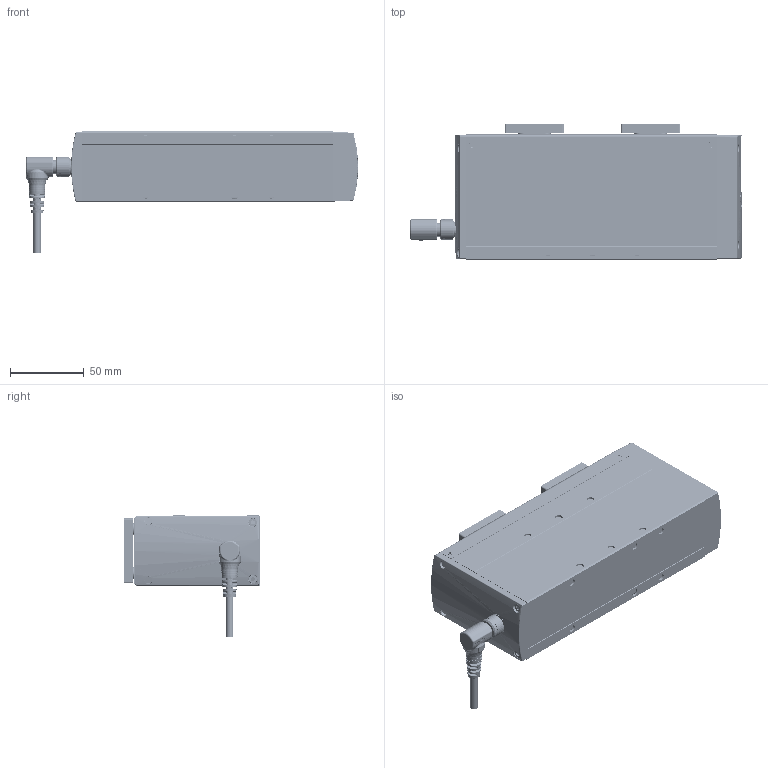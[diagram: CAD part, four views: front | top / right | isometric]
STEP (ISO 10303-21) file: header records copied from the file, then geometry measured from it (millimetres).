
FILE_DESCRIPTION(/* description */ ('STEP AP203'),/* implementation_level */ '2;1');
FILE_NAME(/* name */ 'D:\2025.02.25 帶電匯整給泊舟\3. CHS2系列\4.3D組立\CHS2B-S68-WR.stp',/* time_stamp */ '2025-02-25T18:04:57+08:00',/* author */ ('T10033'),/* organization */ (''),/* preprocessor_version */ 'ST-DEVELOPER v18.1',/* originating_system */ 'Autodesk Inventor 2020',/* authorisation */ '');
FILE_SCHEMA (('CONFIG_CONTROL_DESIGN'));
Products named in the file (9): CHS2B-S68; 12003-000234-02; 12004-000155-02; 22012-000358_M512內六角; 22012-001390_M2.5L16內六角; 22012-000311_M3L6內六角; 慶陞M12金屬頭; 52 5TW3E4_Shrinkwrap_1; M12-14PIN 線端90度接頭-05中繼線
Assembly tree (20 placements, depth 2):
  CHS2B-S68
    12003-000234-02
    12004-000155-02  x2
    22012-000358_M512內六角  x8
    22012-001390_M2.5L16內六角  x4
    22012-000311_M3L6內六角  x2
    慶陞M12金屬頭
    52 5TW3E4_Shrinkwrap_1
    M12-14PIN 線端90度接頭-05中繼線
Bounding box: 224.77 x 92 x 82 mm (x, y, z)
Volume: 782598.5 mm3; surface area: 97961.1 mm2
Topology: 34 solids, 39 shells, 3048 faces, 8965 edges, 6135 vertices
Faces by surface type: plane 1245, cone 800, cylinder 720, bspline 165, torus 114, sphere 4
Full cylindrical faces by diameter (mm): 0.6 x14, 0.65 x14, 1 x14, 1.5 x1, 1.6 x2, 2.05 x2, 2.5 x137, 3 x20, 3.5 x4, 3.8 x4, 4.2 x8, 4.5 x4, 5 x128, 5.2 x8, 5.5 x2, 8 x1, 8.5 x8, 8.9 x1, 9 x8, 9.5 x2, 9.6 x1, 10.5 x2, 10.9 x1, 11 x2, 11.2 x1, 11.25 x1, 12 x1, 12.5 x1, 13 x1, 13.8 x1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
Entity records: 100218 total; most frequent: CARTESIAN_POINT 40848, ORIENTED_EDGE 12152, DIRECTION 12081, EDGE_CURVE 6094, AXIS2_PLACEMENT_3D 4599, VERTEX_POINT 4107, LINE 2883, VECTOR 2883
